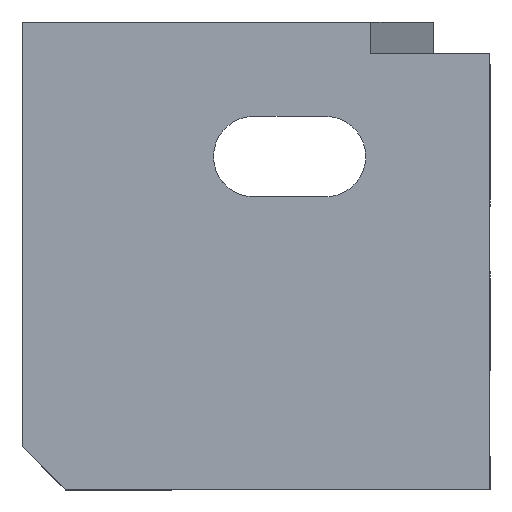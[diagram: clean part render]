
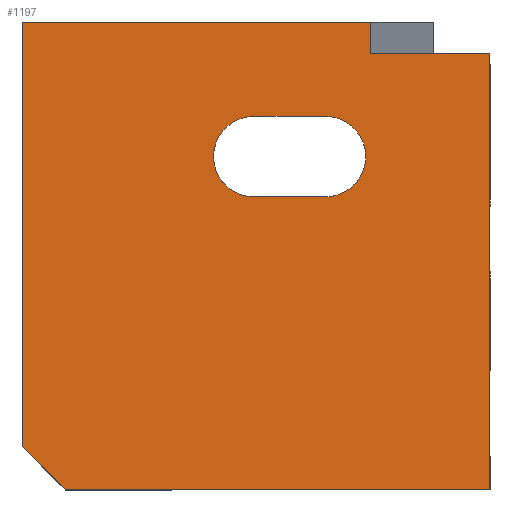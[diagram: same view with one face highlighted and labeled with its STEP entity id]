
A CAD part, left-side view. The second image highlights one B-rep face of the part: STEP entity #1197.
In plain terms, the highlighted planar face has unit normal (-1, 0, 0).
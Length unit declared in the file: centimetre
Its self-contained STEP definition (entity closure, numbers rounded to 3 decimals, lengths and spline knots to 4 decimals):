
#15 = CARTESIAN_POINT ( 'NONE',  ( 0., 504.824, 626.373 ) ) ;
#24 = VERTEX_POINT ( 'NONE', #523 ) ;
#35 = DIRECTION ( 'NONE',  ( 0., 0., 1. ) ) ;
#44 = DIRECTION ( 'NONE',  ( -1., 0., 0. ) ) ;
#45 = DIRECTION ( 'NONE',  ( 0., 0., -1. ) ) ;
#48 = VECTOR ( 'NONE', #118, 100. ) ;
#57 = LINE ( 'NONE', #137, #237 ) ;
#66 = VECTOR ( 'NONE', #500, 100. ) ;
#74 = EDGE_CURVE ( 'NONE', #1052, #624, #476, .T. ) ;
#106 = CARTESIAN_POINT ( 'NONE',  ( 0., 351.4071, 626.373 ) ) ;
#112 = ORIENTED_EDGE ( 'NONE', *, *, #884, .F. ) ;
#118 = DIRECTION ( 'NONE',  ( 0., -1., 0. ) ) ;
#137 = CARTESIAN_POINT ( 'NONE',  ( 0., 504.824, 798.2735 ) ) ;
#139 = CARTESIAN_POINT ( 'NONE',  ( 0., 1000., 1000. ) ) ;
#142 = VECTOR ( 'NONE', #570, 100. ) ;
#152 = LINE ( 'NONE', #1162, #66 ) ;
#156 = CARTESIAN_POINT ( 'NONE',  ( 0., 0., 1000. ) ) ;
#167 = LINE ( 'NONE', #156, #1019 ) ;
#187 = DIRECTION ( 'NONE',  ( 0., 0., -1. ) ) ;
#192 = EDGE_LOOP ( 'NONE', ( #770, #947, #562, #684, #1036, #490, #939 ) ) ;
#216 = AXIS2_PLACEMENT_3D ( 'NONE', #599, #44, #427 ) ;
#234 = CARTESIAN_POINT ( 'NONE',  ( 0., 1000., 0. ) ) ;
#237 = VECTOR ( 'NONE', #1078, 100. ) ;
#240 = CARTESIAN_POINT ( 'NONE',  ( 0., 1000., 1000. ) ) ;
#253 = VECTOR ( 'NONE', #35, 100. ) ;
#276 = VECTOR ( 'NONE', #333, 100. ) ;
#298 = VECTOR ( 'NONE', #45, 100. ) ;
#318 = AXIS2_PLACEMENT_3D ( 'NONE', #646, #1189, #187 ) ;
#321 = CARTESIAN_POINT ( 'NONE',  ( 0., 351.4071, 626.373 ) ) ;
#322 = FACE_BOUND ( 'NONE', #1147, .T. ) ;
#327 = LINE ( 'NONE', #234, #276 ) ;
#333 = DIRECTION ( 'NONE',  ( 0., -1., 0. ) ) ;
#352 = CARTESIAN_POINT ( 'NONE',  ( 0., 504.824, 798.2735 ) ) ;
#376 = VERTEX_POINT ( 'NONE', #15 ) ;
#387 = VERTEX_POINT ( 'NONE', #564 ) ;
#389 = EDGE_CURVE ( 'NONE', #1052, #24, #469, .T. ) ;
#419 = VERTEX_POINT ( 'NONE', #772 ) ;
#423 = LINE ( 'NONE', #139, #298 ) ;
#427 = DIRECTION ( 'NONE',  ( 0., 0., -1. ) ) ;
#440 = EDGE_CURVE ( 'NONE', #376, #568, #1044, .T. ) ;
#469 = LINE ( 'NONE', #943, #48 ) ;
#476 = LINE ( 'NONE', #853, #253 ) ;
#477 = EDGE_CURVE ( 'NONE', #387, #624, #152, .T. ) ;
#483 = VERTEX_POINT ( 'NONE', #987 ) ;
#490 = ORIENTED_EDGE ( 'NONE', *, *, #563, .T. ) ;
#499 = EDGE_CURVE ( 'NONE', #597, #899, #57, .T. ) ;
#500 = DIRECTION ( 'NONE',  ( 0., -1., 0. ) ) ;
#513 = EDGE_CURVE ( 'NONE', #568, #597, #1191, .T. ) ;
#517 = DIRECTION ( 'NONE',  ( 1., 0., 0. ) ) ;
#520 = CARTESIAN_POINT ( 'NONE',  ( 0., 351.4071, 798.2735 ) ) ;
#523 = CARTESIAN_POINT ( 'NONE',  ( 0., 0., 932.4631 ) ) ;
#535 = EDGE_CURVE ( 'NONE', #483, #419, #1056, .T. ) ;
#562 = ORIENTED_EDGE ( 'NONE', *, *, #477, .F. ) ;
#563 = EDGE_CURVE ( 'NONE', #419, #584, #327, .T. ) ;
#564 = CARTESIAN_POINT ( 'NONE',  ( 0., 1000., 1000. ) ) ;
#568 = VERTEX_POINT ( 'NONE', #321 ) ;
#570 = DIRECTION ( 'NONE',  ( 0., -1., 0. ) ) ;
#584 = VERTEX_POINT ( 'NONE', #886 ) ;
#591 = ORIENTED_EDGE ( 'NONE', *, *, #440, .F. ) ;
#597 = VERTEX_POINT ( 'NONE', #520 ) ;
#599 = CARTESIAN_POINT ( 'NONE',  ( 0., 351.4071, 712.3232 ) ) ;
#624 = VERTEX_POINT ( 'NONE', #1190 ) ;
#646 = CARTESIAN_POINT ( 'NONE',  ( 0., 504.824, 712.3232 ) ) ;
#684 = ORIENTED_EDGE ( 'NONE', *, *, #1102, .T. ) ;
#699 = FACE_OUTER_BOUND ( 'NONE', #192, .T. ) ;
#705 = EDGE_CURVE ( 'NONE', #24, #584, #167, .T. ) ;
#722 = DIRECTION ( 'NONE',  ( 0., 0., -1. ) ) ;
#762 = AXIS2_PLACEMENT_3D ( 'NONE', #240, #517, #722 ) ;
#770 = ORIENTED_EDGE ( 'NONE', *, *, #389, .F. ) ;
#772 = CARTESIAN_POINT ( 'NONE',  ( 0., 907.8566, 0. ) ) ;
#778 = DIRECTION ( 'NONE',  ( 0., -0.707, -0.707 ) ) ;
#796 = CARTESIAN_POINT ( 'NONE',  ( 0., 1000., 92.1434 ) ) ;
#808 = ORIENTED_EDGE ( 'NONE', *, *, #513, .F. ) ;
#844 = CIRCLE ( 'NONE', #318, 85.9502 ) ;
#853 = CARTESIAN_POINT ( 'NONE',  ( 0., 254.4822, 932.4631 ) ) ;
#884 = EDGE_CURVE ( 'NONE', #899, #376, #844, .T. ) ;
#886 = CARTESIAN_POINT ( 'NONE',  ( 0., 0., 0. ) ) ;
#899 = VERTEX_POINT ( 'NONE', #352 ) ;
#939 = ORIENTED_EDGE ( 'NONE', *, *, #705, .F. ) ;
#943 = CARTESIAN_POINT ( 'NONE',  ( 0., 254.4822, 932.4631 ) ) ;
#947 = ORIENTED_EDGE ( 'NONE', *, *, #74, .T. ) ;
#955 = ORIENTED_EDGE ( 'NONE', *, *, #499, .F. ) ;
#987 = CARTESIAN_POINT ( 'NONE',  ( 0., 1000., 92.1434 ) ) ;
#995 = DIRECTION ( 'NONE',  ( 0., 0., -1. ) ) ;
#1019 = VECTOR ( 'NONE', #995, 100. ) ;
#1036 = ORIENTED_EDGE ( 'NONE', *, *, #535, .T. ) ;
#1037 = CARTESIAN_POINT ( 'NONE',  ( 0., 254.4822, 932.4631 ) ) ;
#1044 = LINE ( 'NONE', #106, #142 ) ;
#1052 = VERTEX_POINT ( 'NONE', #1037 ) ;
#1056 = LINE ( 'NONE', #796, #1154 ) ;
#1074 = PLANE ( 'NONE',  #762 ) ;
#1078 = DIRECTION ( 'NONE',  ( 0., 1., 0. ) ) ;
#1102 = EDGE_CURVE ( 'NONE', #387, #483, #423, .T. ) ;
#1147 = EDGE_LOOP ( 'NONE', ( #955, #808, #591, #112 ) ) ;
#1154 = VECTOR ( 'NONE', #778, 100. ) ;
#1162 = CARTESIAN_POINT ( 'NONE',  ( 0., 1000., 1000. ) ) ;
#1189 = DIRECTION ( 'NONE',  ( -1., 0., 0. ) ) ;
#1190 = CARTESIAN_POINT ( 'NONE',  ( 0., 254.4822, 1000. ) ) ;
#1191 = CIRCLE ( 'NONE', #216, 85.9502 ) ;
#1197 = ADVANCED_FACE ( 'NONE', ( #322, #699 ), #1074, .F. ) ;
